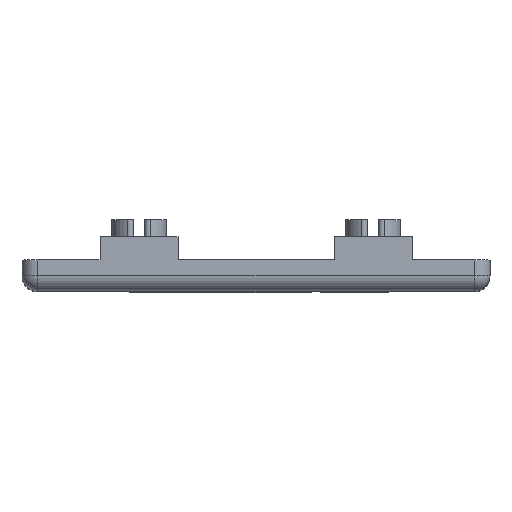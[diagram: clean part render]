
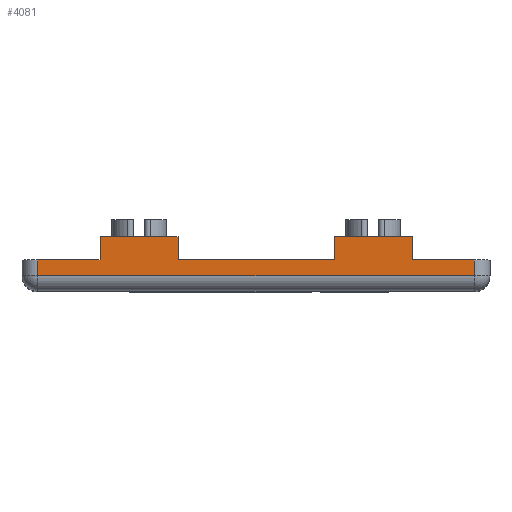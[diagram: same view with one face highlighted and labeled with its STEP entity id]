
A CAD part, top view. The second image highlights one B-rep face of the part: STEP entity #4081.
In plain terms, the highlighted planar face has unit normal (0, 0, 1).
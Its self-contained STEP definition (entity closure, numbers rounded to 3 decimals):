
#64 = EDGE_CURVE ( 'NONE', #1678, #3276, #3476, .T. ) ;
#130 = EDGE_CURVE ( 'NONE', #5654, #4749, #1405, .T. ) ;
#147 = DIRECTION ( 'NONE',  ( 0., -1., 0. ) ) ;
#169 = VECTOR ( 'NONE', #8521, 1000. ) ;
#216 = FACE_OUTER_BOUND ( 'NONE', #1714, .T. ) ;
#224 = DIRECTION ( 'NONE',  ( -1., 0., 0. ) ) ;
#262 = CARTESIAN_POINT ( 'NONE',  ( -20., 7., 30. ) ) ;
#288 = VERTEX_POINT ( 'NONE', #5635 ) ;
#526 = EDGE_CURVE ( 'NONE', #9485, #4749, #3098, .T. ) ;
#582 = CARTESIAN_POINT ( 'NONE',  ( -10., 7., 30. ) ) ;
#730 = ORIENTED_EDGE ( 'NONE', *, *, #5506, .T. ) ;
#903 = CARTESIAN_POINT ( 'NONE',  ( -28., 2., 30. ) ) ;
#1231 = CARTESIAN_POINT ( 'NONE',  ( -10., 4., 30. ) ) ;
#1351 = CARTESIAN_POINT ( 'NONE',  ( -20., 7., 30. ) ) ;
#1405 = LINE ( 'NONE', #8761, #9264 ) ;
#1434 = ORIENTED_EDGE ( 'NONE', *, *, #5043, .T. ) ;
#1448 = ORIENTED_EDGE ( 'NONE', *, *, #1721, .F. ) ;
#1598 = CARTESIAN_POINT ( 'NONE',  ( -28., 4., 30. ) ) ;
#1678 = VERTEX_POINT ( 'NONE', #2872 ) ;
#1714 = EDGE_LOOP ( 'NONE', ( #7066, #1434, #6240, #5463, #3121, #9770, #4993, #7788, #4307, #5034, #730, #1448 ) ) ;
#1721 = EDGE_CURVE ( 'NONE', #2309, #6124, #2178, .T. ) ;
#1978 = LINE ( 'NONE', #4275, #6013 ) ;
#1994 = VERTEX_POINT ( 'NONE', #9580 ) ;
#2178 = LINE ( 'NONE', #2971, #3984 ) ;
#2238 = VERTEX_POINT ( 'NONE', #8399 ) ;
#2293 = CARTESIAN_POINT ( 'NONE',  ( 20., 7., 30. ) ) ;
#2309 = VERTEX_POINT ( 'NONE', #3194 ) ;
#2439 = EDGE_CURVE ( 'NONE', #288, #3743, #8607, .T. ) ;
#2520 = CARTESIAN_POINT ( 'NONE',  ( 20., 7., 30. ) ) ;
#2627 = EDGE_CURVE ( 'NONE', #3743, #1994, #1978, .T. ) ;
#2872 = CARTESIAN_POINT ( 'NONE',  ( -20., 7., 30. ) ) ;
#2959 = DIRECTION ( 'NONE',  ( 0., -1., 0. ) ) ;
#2971 = CARTESIAN_POINT ( 'NONE',  ( -28., 4., 30. ) ) ;
#2982 = CARTESIAN_POINT ( 'NONE',  ( -28., 2., 30. ) ) ;
#3098 = LINE ( 'NONE', #1598, #4634 ) ;
#3121 = ORIENTED_EDGE ( 'NONE', *, *, #9556, .F. ) ;
#3136 = DIRECTION ( 'NONE',  ( 0., -1., 0. ) ) ;
#3194 = CARTESIAN_POINT ( 'NONE',  ( -28., 4., 30. ) ) ;
#3267 = CARTESIAN_POINT ( 'NONE',  ( -28., 4., 30. ) ) ;
#3276 = VERTEX_POINT ( 'NONE', #582 ) ;
#3476 = LINE ( 'NONE', #262, #7276 ) ;
#3743 = VERTEX_POINT ( 'NONE', #5035 ) ;
#3952 = VECTOR ( 'NONE', #3136, 1000. ) ;
#3955 = CARTESIAN_POINT ( 'NONE',  ( 10., 4., 30. ) ) ;
#3961 = AXIS2_PLACEMENT_3D ( 'NONE', #3267, #4792, #224 ) ;
#3984 = VECTOR ( 'NONE', #8288, 1000. ) ;
#4081 = ADVANCED_FACE ( 'NONE', ( #216 ), #9325, .F. ) ;
#4233 = LINE ( 'NONE', #903, #169 ) ;
#4275 = CARTESIAN_POINT ( 'NONE',  ( 28., 4., 30. ) ) ;
#4307 = ORIENTED_EDGE ( 'NONE', *, *, #5064, .F. ) ;
#4634 = VECTOR ( 'NONE', #6174, 1000. ) ;
#4688 = LINE ( 'NONE', #1351, #8484 ) ;
#4749 = VERTEX_POINT ( 'NONE', #3955 ) ;
#4792 = DIRECTION ( 'NONE',  ( 0., 0., -1. ) ) ;
#4993 = ORIENTED_EDGE ( 'NONE', *, *, #130, .T. ) ;
#5034 = ORIENTED_EDGE ( 'NONE', *, *, #64, .F. ) ;
#5035 = CARTESIAN_POINT ( 'NONE',  ( 28., 4., 30. ) ) ;
#5043 = EDGE_CURVE ( 'NONE', #9428, #1994, #4233, .T. ) ;
#5064 = EDGE_CURVE ( 'NONE', #3276, #9485, #6244, .T. ) ;
#5115 = EDGE_CURVE ( 'NONE', #5654, #2238, #8030, .T. ) ;
#5140 = CARTESIAN_POINT ( 'NONE',  ( -28., 4., 30. ) ) ;
#5426 = CARTESIAN_POINT ( 'NONE',  ( 10., 7., 30. ) ) ;
#5463 = ORIENTED_EDGE ( 'NONE', *, *, #2439, .F. ) ;
#5506 = EDGE_CURVE ( 'NONE', #1678, #6124, #4688, .T. ) ;
#5628 = LINE ( 'NONE', #2293, #7393 ) ;
#5635 = CARTESIAN_POINT ( 'NONE',  ( 20., 4., 30. ) ) ;
#5654 = VERTEX_POINT ( 'NONE', #5426 ) ;
#5863 = VECTOR ( 'NONE', #5896, 1000. ) ;
#5896 = DIRECTION ( 'NONE',  ( 1., 0., 0. ) ) ;
#5999 = VECTOR ( 'NONE', #8554, 1000. ) ;
#6013 = VECTOR ( 'NONE', #9539, 1000. ) ;
#6124 = VERTEX_POINT ( 'NONE', #7637 ) ;
#6174 = DIRECTION ( 'NONE',  ( 1., 0., 0. ) ) ;
#6240 = ORIENTED_EDGE ( 'NONE', *, *, #2627, .F. ) ;
#6244 = LINE ( 'NONE', #7803, #5999 ) ;
#6680 = DIRECTION ( 'NONE',  ( 0., -1., 0. ) ) ;
#7066 = ORIENTED_EDGE ( 'NONE', *, *, #7964, .T. ) ;
#7075 = DIRECTION ( 'NONE',  ( 1., 0., 0. ) ) ;
#7131 = DIRECTION ( 'NONE',  ( 1., 0., 0. ) ) ;
#7276 = VECTOR ( 'NONE', #7131, 1000. ) ;
#7393 = VECTOR ( 'NONE', #2959, 1000. ) ;
#7637 = CARTESIAN_POINT ( 'NONE',  ( -20., 4., 30. ) ) ;
#7689 = CARTESIAN_POINT ( 'NONE',  ( -28., 4., 30. ) ) ;
#7746 = LINE ( 'NONE', #7689, #3952 ) ;
#7788 = ORIENTED_EDGE ( 'NONE', *, *, #526, .F. ) ;
#7803 = CARTESIAN_POINT ( 'NONE',  ( -10., 7., 30. ) ) ;
#7964 = EDGE_CURVE ( 'NONE', #2309, #9428, #7746, .T. ) ;
#8030 = LINE ( 'NONE', #2520, #9558 ) ;
#8288 = DIRECTION ( 'NONE',  ( 1., 0., 0. ) ) ;
#8399 = CARTESIAN_POINT ( 'NONE',  ( 20., 7., 30. ) ) ;
#8484 = VECTOR ( 'NONE', #6680, 1000. ) ;
#8521 = DIRECTION ( 'NONE',  ( 1., 0., 0. ) ) ;
#8554 = DIRECTION ( 'NONE',  ( 0., -1., 0. ) ) ;
#8607 = LINE ( 'NONE', #5140, #5863 ) ;
#8761 = CARTESIAN_POINT ( 'NONE',  ( 10., 7., 30. ) ) ;
#9264 = VECTOR ( 'NONE', #147, 1000. ) ;
#9325 = PLANE ( 'NONE',  #3961 ) ;
#9428 = VERTEX_POINT ( 'NONE', #2982 ) ;
#9485 = VERTEX_POINT ( 'NONE', #1231 ) ;
#9539 = DIRECTION ( 'NONE',  ( 0., -1., 0. ) ) ;
#9556 = EDGE_CURVE ( 'NONE', #2238, #288, #5628, .T. ) ;
#9558 = VECTOR ( 'NONE', #7075, 1000. ) ;
#9580 = CARTESIAN_POINT ( 'NONE',  ( 28., 2., 30. ) ) ;
#9770 = ORIENTED_EDGE ( 'NONE', *, *, #5115, .F. ) ;
